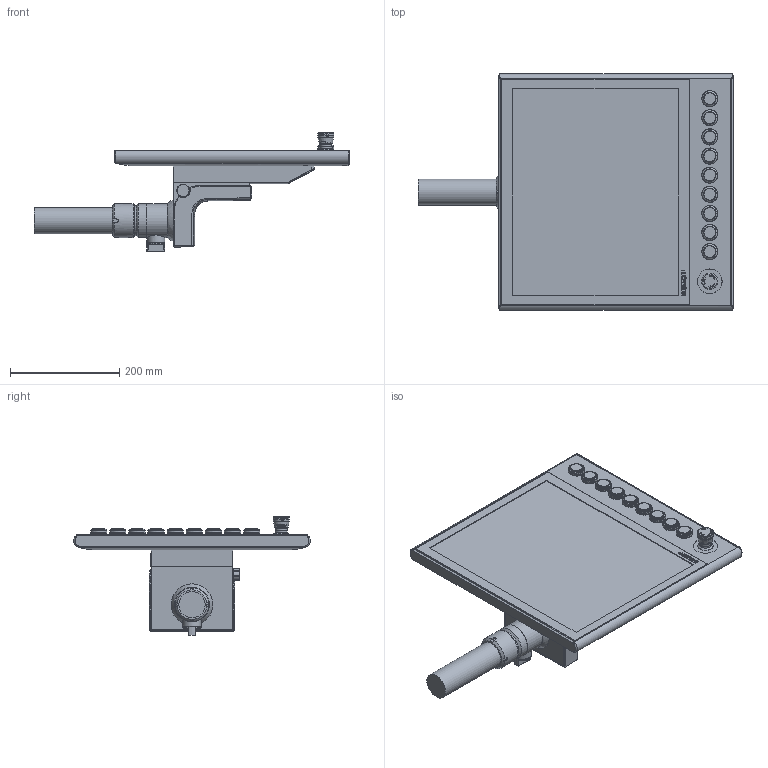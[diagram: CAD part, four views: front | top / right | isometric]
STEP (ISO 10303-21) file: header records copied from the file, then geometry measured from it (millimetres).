
FILE_DESCRIPTION(/* description */ (''),/* implementation_level */ '2;1');
FILE_NAME(/* name */ 'X:\0-inventor\0-3d-Teile\PC-Compo\solids\CP3xxx\0-Ausgabe\CP3919-G026-M752-E274.stp',/* time_stamp */ '2014-06-30T12:44:40+02:00',/* author */ ('ChristianKreuzer'),/* organization */ ('Design-AG'),/* preprocessor_version */ 'ST-DEVELOPER v15.2',/* originating_system */ 'Autodesk Inventor 2014',/* authorisation */ '');
FILE_SCHEMA (('CONFIG_CONTROL_DESIGN'));
Products named in the file (1): CP3919-G026-M752-E274-Step
Bounding box: 577.8 x 433.19 x 217.29 mm (x, y, z)
Volume: 8054211.9 mm3; surface area: 576882.7 mm2
Topology: 13 solids, 27 shells, 1943 faces, 5096 edges, 3330 vertices
Faces by surface type: plane 1104, cylinder 436, cone 168, torus 125, bspline 91, sphere 19
Full cylindrical faces by diameter (mm): 3 x11, 3.4 x11, 6 x11, 20 x1, 21.3 x1, 21.5 x1, 22.2 x1, 22.55 x3, 22.7 x9, 22.8 x1, 23.028 x9, 23.7 x9, 24.8 x9, 25 x1, 25.8 x1, 26.7 x9, 26.8 x1, 28 x1, 28.6 x9, 33 x1, 45 x1, 45.2 x1, 48 x1, 55 x1, 59.699 x1, 62 x3
Entity records: 62082 total; most frequent: CARTESIAN_POINT 14716, DIRECTION 9208, ORIENTED_EDGE 9102, EDGE_CURVE 4551, AXIS2_PLACEMENT_3D 3213, VERTEX_POINT 3127, LINE 2782, VECTOR 2782
